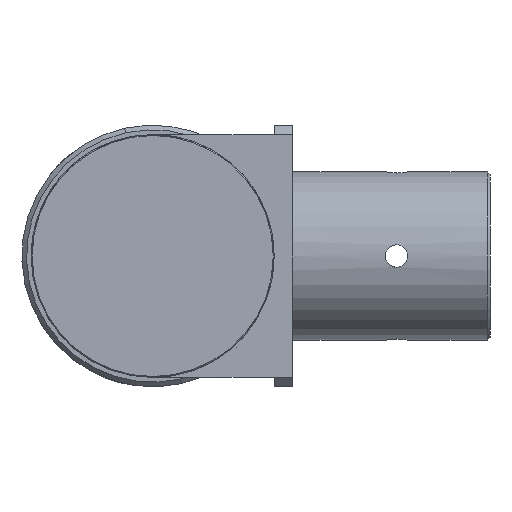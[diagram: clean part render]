
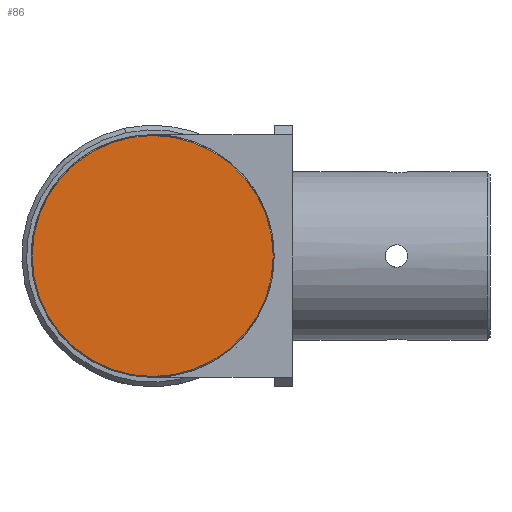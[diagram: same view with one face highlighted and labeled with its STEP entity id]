
A CAD part, left-side view. The second image highlights one B-rep face of the part: STEP entity #86.
In plain terms, the highlighted planar face has unit normal (-1, 0, 0).
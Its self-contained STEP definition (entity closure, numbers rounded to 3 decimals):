
#86 = ADVANCED_FACE ( 'NONE', ( #832 ), #2798, .T. ) ;
#468 = AXIS2_PLACEMENT_3D ( 'NONE', #2157, #1685, #4574 ) ;
#610 = ORIENTED_EDGE ( 'NONE', *, *, #3919, .F. ) ;
#832 = FACE_OUTER_BOUND ( 'NONE', #2471, .T. ) ;
#1685 = DIRECTION ( 'NONE',  ( 1., 0., 0. ) ) ;
#1782 = ORIENTED_EDGE ( 'NONE', *, *, #2924, .F. ) ;
#1923 = VERTEX_POINT ( 'NONE', #4911 ) ;
#1949 = DIRECTION ( 'NONE',  ( 0., 0., 1. ) ) ;
#1971 = AXIS2_PLACEMENT_3D ( 'NONE', #3165, #4860, #1949 ) ;
#2157 = CARTESIAN_POINT ( 'NONE',  ( 0.2, 0., 0. ) ) ;
#2358 = VERTEX_POINT ( 'NONE', #4835 ) ;
#2382 = DIRECTION ( 'NONE',  ( 1., 0., 0. ) ) ;
#2471 = EDGE_LOOP ( 'NONE', ( #610, #1782 ) ) ;
#2736 = DIRECTION ( 'NONE',  ( 0., 0., 1. ) ) ;
#2798 = PLANE ( 'NONE',  #1971 ) ;
#2924 = EDGE_CURVE ( 'NONE', #1923, #2358, #3187, .T. ) ;
#3165 = CARTESIAN_POINT ( 'NONE',  ( 0.2, 0., 0. ) ) ;
#3187 = CIRCLE ( 'NONE', #468, 12.9 ) ;
#3353 = CIRCLE ( 'NONE', #3936, 12.9 ) ;
#3919 = EDGE_CURVE ( 'NONE', #2358, #1923, #3353, .T. ) ;
#3936 = AXIS2_PLACEMENT_3D ( 'NONE', #4416, #2382, #2736 ) ;
#4416 = CARTESIAN_POINT ( 'NONE',  ( 0.2, 0., 0. ) ) ;
#4574 = DIRECTION ( 'NONE',  ( 0., 0., 1. ) ) ;
#4835 = CARTESIAN_POINT ( 'NONE',  ( 0.2, 0., -12.9 ) ) ;
#4860 = DIRECTION ( 'NONE',  ( -1., 0., 0. ) ) ;
#4911 = CARTESIAN_POINT ( 'NONE',  ( 0.2, 0., 12.9 ) ) ;
